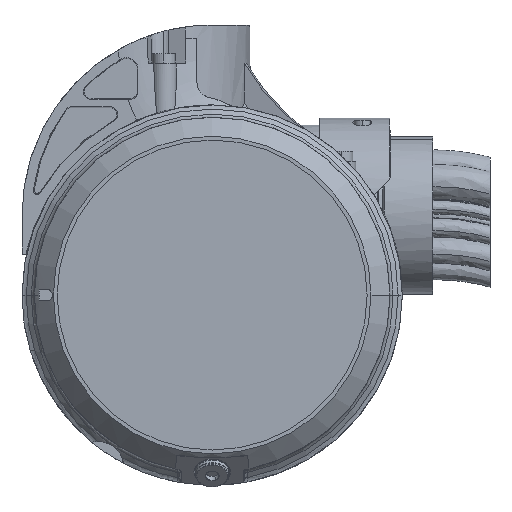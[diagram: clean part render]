
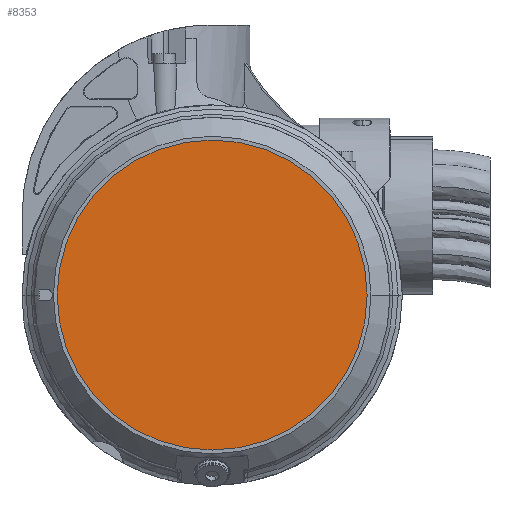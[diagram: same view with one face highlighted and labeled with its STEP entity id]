
A CAD part, left-side view. The second image highlights one B-rep face of the part: STEP entity #8353.
In plain terms, the highlighted planar face has unit normal (-1, 0, 0).
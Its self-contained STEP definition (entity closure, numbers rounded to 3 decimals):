
#730 = EDGE_LOOP ( 'NONE', ( #4337, #13984 ) ) ;
#1541 = CIRCLE ( 'NONE', #7436, 81.5 ) ;
#2405 = VERTEX_POINT ( 'NONE', #6126 ) ;
#3141 = DIRECTION ( 'NONE',  ( 0., -1., 0. ) ) ;
#3190 = DIRECTION ( 'NONE',  ( 0., -1., 0. ) ) ;
#4337 = ORIENTED_EDGE ( 'NONE', *, *, #6771, .T. ) ;
#6126 = CARTESIAN_POINT ( 'NONE',  ( 1887.5, 81.5, 2150. ) ) ;
#6275 = VERTEX_POINT ( 'NONE', #33663 ) ;
#6771 = EDGE_CURVE ( 'NONE', #6275, #2405, #42223, .T. ) ;
#7436 = AXIS2_PLACEMENT_3D ( 'NONE', #13596, #16849, #3141 ) ;
#8353 = ADVANCED_FACE ( 'NONE', ( #27123 ), #19711, .T. ) ;
#9129 = EDGE_CURVE ( 'NONE', #2405, #6275, #1541, .T. ) ;
#12858 = DIRECTION ( 'NONE',  ( 0., -1., 0. ) ) ;
#13342 = CARTESIAN_POINT ( 'NONE',  ( 1887.5, 0., 2150. ) ) ;
#13596 = CARTESIAN_POINT ( 'NONE',  ( 1887.5, 0., 2150. ) ) ;
#13984 = ORIENTED_EDGE ( 'NONE', *, *, #9129, .T. ) ;
#16849 = DIRECTION ( 'NONE',  ( -1., 0., 0. ) ) ;
#19639 = DIRECTION ( 'NONE',  ( -1., 0., 0. ) ) ;
#19711 = PLANE ( 'NONE',  #29664 ) ;
#24562 = DIRECTION ( 'NONE',  ( -1., 0., 0. ) ) ;
#27123 = FACE_OUTER_BOUND ( 'NONE', #730, .T. ) ;
#27793 = CARTESIAN_POINT ( 'NONE',  ( 1887.5, 18.5, 2150. ) ) ;
#28759 = AXIS2_PLACEMENT_3D ( 'NONE', #13342, #19639, #12858 ) ;
#29664 = AXIS2_PLACEMENT_3D ( 'NONE', #27793, #24562, #3190 ) ;
#33663 = CARTESIAN_POINT ( 'NONE',  ( 1887.5, -81.5, 2150. ) ) ;
#42223 = CIRCLE ( 'NONE', #28759, 81.5 ) ;
